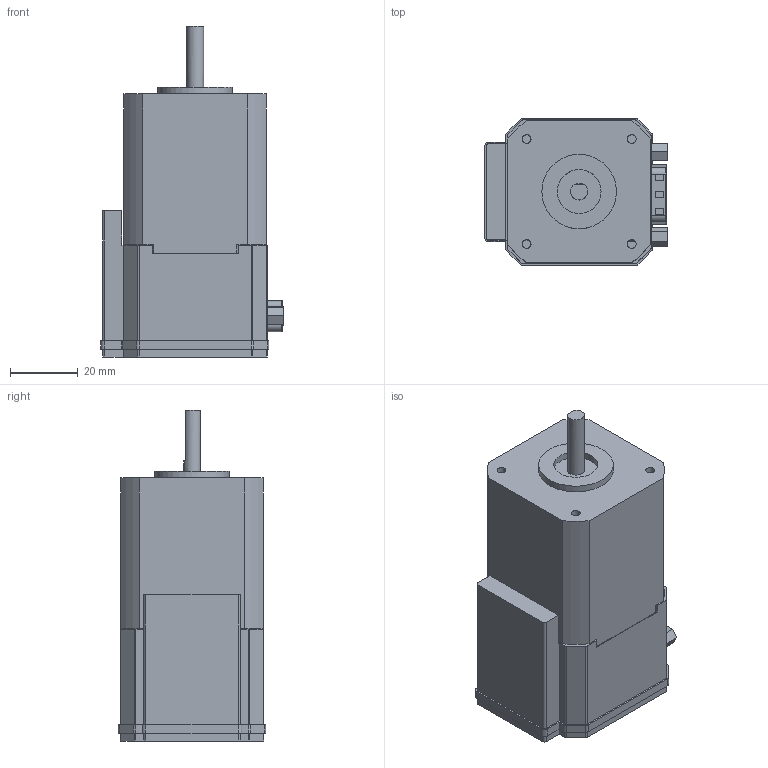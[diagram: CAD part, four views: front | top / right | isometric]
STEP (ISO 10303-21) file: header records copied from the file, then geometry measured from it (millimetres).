
FILE_DESCRIPTION(/* description */ ('Alibre Inc.'),/* implementation_level */ '2;1');
FILE_NAME(/* name */ 'export0',/* time_stamp */ '2018-06-19T15:41:47-07:00',/* author */ (''),/* organization */ (''),/* preprocessor_version */ 'ST-DEVELOPER v17',/* originating_system */ 'Alibre',/* authorisation */ '');
FILE_SCHEMA (('AUTOMOTIVE_DESIGN'));
Length unit declared in the file: inch
Bounding box: 53.77 x 43.43 x 97.86 mm (x, y, z)
Volume: 94074.2 mm3; surface area: 34237.1 mm2
Topology: 64 solids, 64 shells, 1742 faces, 4492 edges, 2948 vertices
Faces by surface type: plane 790, bspline 639, cylinder 263, torus 50
Full cylindrical faces by diameter (mm): 2.489 x2, 2.616 x4, 2.87 x2, 3.048 x2, 5 x2, 12.954 x1, 22 x1
Entity records: 57560 total; most frequent: CARTESIAN_POINT 20279, ORIENTED_EDGE 8942, DIRECTION 4867, EDGE_CURVE 4449, VERTEX_POINT 2925, VECTOR 2565, LINE 2565, EDGE_LOOP 1854
